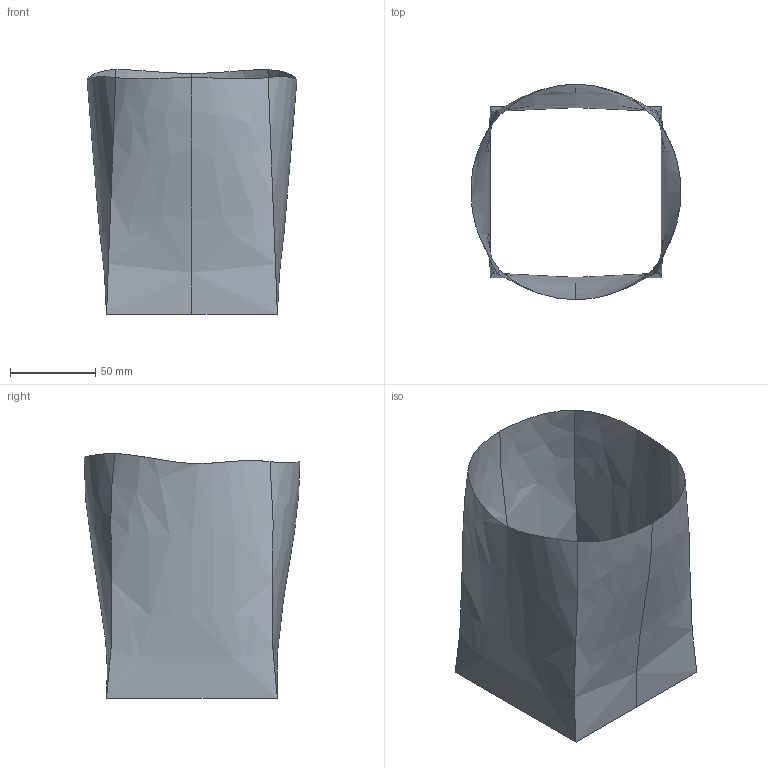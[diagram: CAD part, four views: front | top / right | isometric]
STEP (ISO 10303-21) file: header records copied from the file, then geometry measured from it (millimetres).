
FILE_DESCRIPTION (( 'STEP AP203' ), '1' );
FILE_NAME ('27.1.STEP', '2025-11-22T16:06:17', ( '' ), ( '' ), 'SwSTEP 2.0', 'SolidWorks 2025', '' );
FILE_SCHEMA (( 'CONFIG_CONTROL_DESIGN' ));
Length unit declared in the file: millimetre
Products named in the file (1): 27.1
Bounding box: 122.85 x 126.12 x 143.18 mm (x, y, z)
Surface area: 54656.3 mm2 (no closed solid volume)
Topology: 0 solids, 1 shells, 6 faces, 18 edges, 12 vertices
Faces by surface type: bspline 6
Entity records: 685 total; most frequent: CARTESIAN_POINT 493, ORIENTED_EDGE 24, EDGE_CURVE 18, B_SPLINE_CURVE_WITH_KNOTS 12, VERTEX_POINT 12, DIRECTION 8, PERSON_AND_ORGANIZATION 8, VECTOR 6
